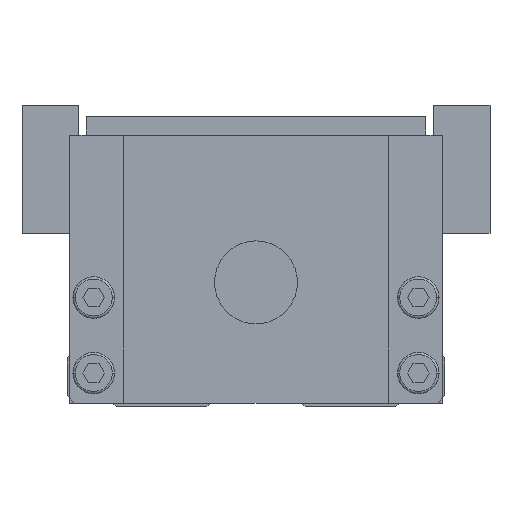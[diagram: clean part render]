
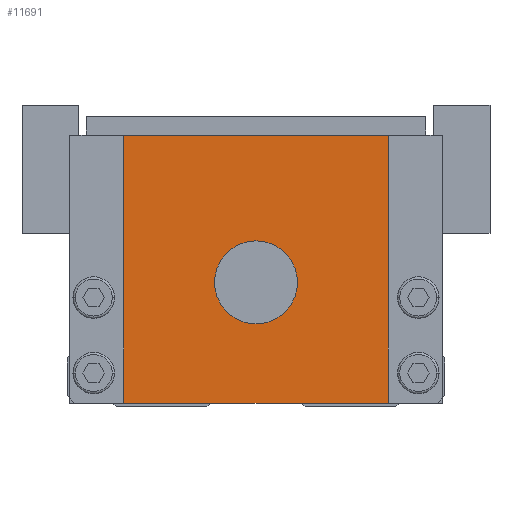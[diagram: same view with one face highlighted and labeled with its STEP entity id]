
A CAD part, front view. The second image highlights one B-rep face of the part: STEP entity #11691.
In plain terms, the highlighted planar face has unit normal (0, -1, 0).
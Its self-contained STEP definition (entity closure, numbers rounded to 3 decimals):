
#6311=VERTEX_POINT('',#18400);
#7117=VERTEX_POINT('',#19289);
#9075=VERTEX_POINT('',#21497);
#9633=VERTEX_POINT('',#22124);
#11599=VERTEX_POINT('',#24307);
#11691=ADVANCED_FACE('',(#24406,#24407),#24408,.F.);
#12657=EDGE_CURVE('',#9633,#13413,#25485,.T.);
#12719=EDGE_CURVE('',#9633,#11599,#25551,.T.);
#13413=VERTEX_POINT('',#26310);
#14521=EDGE_CURVE('',#6311,#9075,#27538,.T.);
#15763=EDGE_CURVE('',#9075,#6311,#28914,.T.);
#15907=EDGE_CURVE('',#7117,#13413,#29067,.T.);
#16053=EDGE_CURVE('',#11599,#7117,#29224,.T.);
#18400=CARTESIAN_POINT('',(5.5,0.0,16.5));
#19289=CARTESIAN_POINT('',(17.5,0.0,0.5));
#21497=CARTESIAN_POINT('',(-5.5,0.0,16.5));
#22124=CARTESIAN_POINT('',(-17.5,0.0,36.0));
#24307=CARTESIAN_POINT('',(17.5,0.0,36.0));
#24406=FACE_BOUND('',#40652,.T.);
#24407=FACE_OUTER_BOUND('',#40653,.T.);
#24408=PLANE('',#40654);
#25485=LINE('',#42169,#42170);
#25551=LINE('',#42271,#42272);
#26310=CARTESIAN_POINT('',(-17.5,0.0,0.5));
#27538=CIRCLE('',#45282,5.5);
#28914=CIRCLE('',#47187,5.5);
#29067=LINE('',#47381,#47382);
#29224=LINE('',#47627,#47628);
#40652=EDGE_LOOP('',(#58139,#58140));
#40653=EDGE_LOOP('',(#58141,#58142,#58143,#58144));
#40654=AXIS2_PLACEMENT_3D('',#58145,#58146,#58147);
#42169=CARTESIAN_POINT('',(-17.5,0.0,18.25));
#42170=VECTOR('',#59418,1.0);
#42271=CARTESIAN_POINT('',(0.0,0.0,36.0));
#42272=VECTOR('',#59490,1.0);
#45282=AXIS2_PLACEMENT_3D('',#61715,#61716,#61717);
#47187=AXIS2_PLACEMENT_3D('',#63244,#63245,#63246);
#47381=CARTESIAN_POINT('',(0.0,0.0,0.5));
#47382=VECTOR('',#63374,1.0);
#47627=CARTESIAN_POINT('',(17.5,0.0,18.25));
#47628=VECTOR('',#63534,1.0);
#58139=ORIENTED_EDGE('',*,*,#14521,.T.);
#58140=ORIENTED_EDGE('',*,*,#15763,.T.);
#58141=ORIENTED_EDGE('',*,*,#12657,.T.);
#58142=ORIENTED_EDGE('',*,*,#15907,.F.);
#58143=ORIENTED_EDGE('',*,*,#16053,.F.);
#58144=ORIENTED_EDGE('',*,*,#12719,.F.);
#58145=CARTESIAN_POINT('',(0.0,0.0,18.25));
#58146=DIRECTION('',(0.0,1.0,0.0));
#58147=DIRECTION('',(0.0,0.0,1.0));
#59418=DIRECTION('',(0.0,0.0,-1.0));
#59490=DIRECTION('',(1.0,0.0,0.0));
#61715=CARTESIAN_POINT('',(0.0,0.0,16.5));
#61716=DIRECTION('',(-0.0,1.0,0.0));
#61717=DIRECTION('',(1.0,0.0,0.0));
#63244=CARTESIAN_POINT('',(0.0,0.0,16.5));
#63245=DIRECTION('',(-0.0,1.0,0.0));
#63246=DIRECTION('',(1.0,0.0,0.0));
#63374=DIRECTION('',(-1.0,0.0,0.0));
#63534=DIRECTION('',(0.0,0.0,-1.0));
